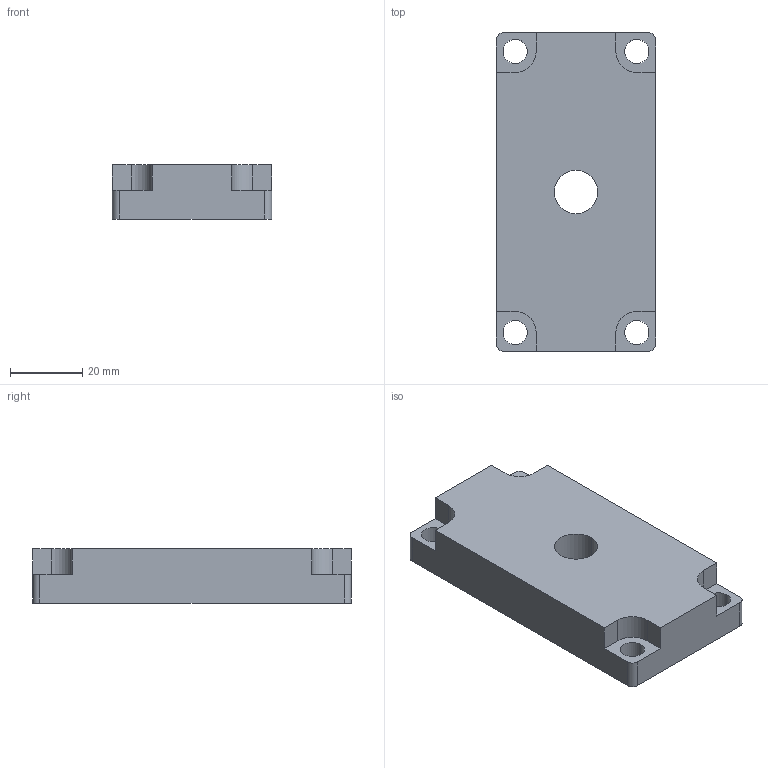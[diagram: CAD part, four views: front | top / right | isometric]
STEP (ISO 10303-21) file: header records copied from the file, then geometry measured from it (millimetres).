
FILE_DESCRIPTION (( 'STEP AP214' ), '1' );
FILE_NAME ('FBFE 44X88M12.step', '2017-04-05T08:02:47', ( '' ), ( '' ), 'SwSTEP 2.0', 'SolidWorks 2015', '' );
FILE_SCHEMA (( 'AUTOMOTIVE_DESIGN' ));
Length unit declared in the file: millimetre
Products named in the file (1): FBFE 44X88M12
Bounding box: 44 x 88 x 15 mm (x, y, z)
Volume: 52041.1 mm3; surface area: 12330.9 mm2
Topology: 1 solids, 1 shells, 36 faces, 102 edges, 68 vertices
Faces by surface type: cylinder 18, plane 18
Entity records: 1236 total; most frequent: DIRECTION 212, CARTESIAN_POINT 207, ORIENTED_EDGE 204, EDGE_CURVE 102, AXIS2_PLACEMENT_3D 73, VERTEX_POINT 68, LINE 66, VECTOR 66
